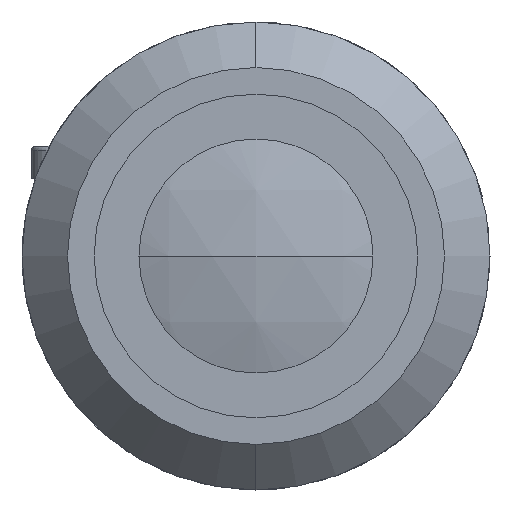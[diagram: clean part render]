
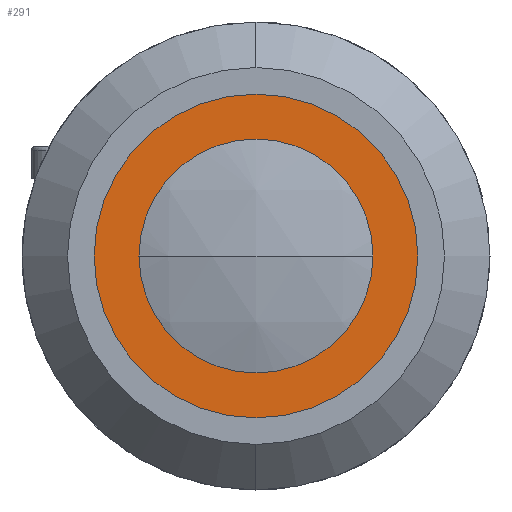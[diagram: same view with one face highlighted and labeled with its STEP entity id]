
A CAD part, left-side view. The second image highlights one B-rep face of the part: STEP entity #291.
In plain terms, the highlighted planar face has unit normal (-1, 0, 0).
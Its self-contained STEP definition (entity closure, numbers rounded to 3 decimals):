
#1 = DIRECTION ( 'NONE',  ( -1., 0., 0. ) ) ;
#77 = VERTEX_POINT ( 'NONE', #1104 ) ;
#143 = FACE_OUTER_BOUND ( 'NONE', #741, .T. ) ;
#235 = CARTESIAN_POINT ( 'NONE',  ( 3.5, 0., 0. ) ) ;
#284 = CARTESIAN_POINT ( 'NONE',  ( 3.5, 0., 9. ) ) ;
#291 = ADVANCED_FACE ( 'NONE', ( #2150, #143 ), #989, .F. ) ;
#478 = DIRECTION ( 'NONE',  ( 0., 0., 1. ) ) ;
#541 = CARTESIAN_POINT ( 'NONE',  ( 3.5, 0., 0. ) ) ;
#560 = CIRCLE ( 'NONE', #896, 13.2 ) ;
#741 = EDGE_LOOP ( 'NONE', ( #2949, #3202 ) ) ;
#813 = DIRECTION ( 'NONE',  ( 0., 0., 1. ) ) ;
#896 = AXIS2_PLACEMENT_3D ( 'NONE', #3102, #1458, #3353 ) ;
#974 = CIRCLE ( 'NONE', #1467, 9. ) ;
#989 = PLANE ( 'NONE',  #1754 ) ;
#1104 = CARTESIAN_POINT ( 'NONE',  ( 3.5, 0., 13.2 ) ) ;
#1170 = CIRCLE ( 'NONE', #1574, 13.2 ) ;
#1293 = CIRCLE ( 'NONE', #1621, 9. ) ;
#1352 = CARTESIAN_POINT ( 'NONE',  ( 3.5, 0., -13.2 ) ) ;
#1458 = DIRECTION ( 'NONE',  ( -1., 0., 0. ) ) ;
#1467 = AXIS2_PLACEMENT_3D ( 'NONE', #541, #2424, #813 ) ;
#1519 = DIRECTION ( 'NONE',  ( 1., 0., 0. ) ) ;
#1551 = CARTESIAN_POINT ( 'NONE',  ( 3.5, 0., 0. ) ) ;
#1574 = AXIS2_PLACEMENT_3D ( 'NONE', #1551, #1, #1812 ) ;
#1621 = AXIS2_PLACEMENT_3D ( 'NONE', #235, #2070, #478 ) ;
#1718 = VERTEX_POINT ( 'NONE', #2141 ) ;
#1745 = VERTEX_POINT ( 'NONE', #1352 ) ;
#1754 = AXIS2_PLACEMENT_3D ( 'NONE', #2604, #1519, #3396 ) ;
#1812 = DIRECTION ( 'NONE',  ( 0., 0., 1. ) ) ;
#2013 = VERTEX_POINT ( 'NONE', #284 ) ;
#2070 = DIRECTION ( 'NONE',  ( -1., 0., 0. ) ) ;
#2141 = CARTESIAN_POINT ( 'NONE',  ( 3.5, 0., -9. ) ) ;
#2150 = FACE_BOUND ( 'NONE', #2927, .T. ) ;
#2383 = EDGE_CURVE ( 'NONE', #2013, #1718, #1293, .T. ) ;
#2424 = DIRECTION ( 'NONE',  ( -1., 0., 0. ) ) ;
#2438 = EDGE_CURVE ( 'NONE', #77, #1745, #1170, .T. ) ;
#2471 = ORIENTED_EDGE ( 'NONE', *, *, #2383, .F. ) ;
#2526 = EDGE_CURVE ( 'NONE', #1718, #2013, #974, .T. ) ;
#2604 = CARTESIAN_POINT ( 'NONE',  ( 3.5, 13.2, 0. ) ) ;
#2635 = ORIENTED_EDGE ( 'NONE', *, *, #2526, .F. ) ;
#2708 = EDGE_CURVE ( 'NONE', #1745, #77, #560, .T. ) ;
#2927 = EDGE_LOOP ( 'NONE', ( #2471, #2635 ) ) ;
#2949 = ORIENTED_EDGE ( 'NONE', *, *, #2438, .T. ) ;
#3102 = CARTESIAN_POINT ( 'NONE',  ( 3.5, 0., 0. ) ) ;
#3202 = ORIENTED_EDGE ( 'NONE', *, *, #2708, .T. ) ;
#3353 = DIRECTION ( 'NONE',  ( 0., 0., 1. ) ) ;
#3396 = DIRECTION ( 'NONE',  ( 0., 0., -1. ) ) ;
